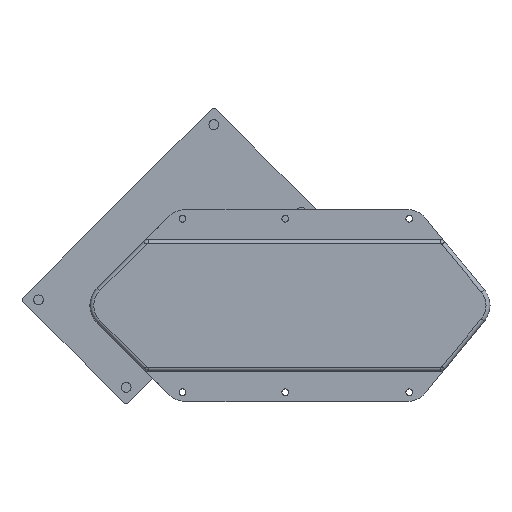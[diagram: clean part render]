
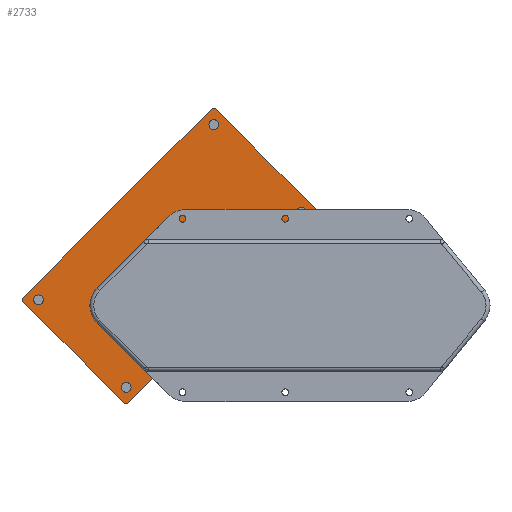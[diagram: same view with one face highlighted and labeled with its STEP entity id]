
A CAD part, top view. The second image highlights one B-rep face of the part: STEP entity #2733.
In plain terms, the highlighted planar face has unit normal (0, 0, 1) as drawn and (0, 0, -1) by its records, which use the part's own axes.
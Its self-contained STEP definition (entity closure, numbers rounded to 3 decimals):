
#39 = VERTEX_POINT ( 'NONE', #3929 ) ;
#56 = DIRECTION ( 'NONE',  ( -1., 0., 0. ) ) ;
#59 = AXIS2_PLACEMENT_3D ( 'NONE', #108, #1600, #4334 ) ;
#108 = CARTESIAN_POINT ( 'NONE',  ( 10., 110., 0. ) ) ;
#116 = CARTESIAN_POINT ( 'NONE',  ( 214., 10., 0. ) ) ;
#157 = DIRECTION ( 'NONE',  ( -1., 0., 0. ) ) ;
#205 = CARTESIAN_POINT ( 'NONE',  ( 206., 110., 0. ) ) ;
#238 = ORIENTED_EDGE ( 'NONE', *, *, #1915, .F. ) ;
#276 = CARTESIAN_POINT ( 'NONE',  ( 10., 110., 0. ) ) ;
#278 = DIRECTION ( 'NONE',  ( 0., 0., -1. ) ) ;
#282 = PLANE ( 'NONE',  #4636 ) ;
#319 = EDGE_CURVE ( 'NONE', #39, #475, #332, .T. ) ;
#332 = CIRCLE ( 'NONE', #3399, 2. ) ;
#459 = EDGE_LOOP ( 'NONE', ( #3606, #238 ) ) ;
#468 = VERTEX_POINT ( 'NONE', #3388 ) ;
#475 = VERTEX_POINT ( 'NONE', #2971 ) ;
#515 = EDGE_CURVE ( 'NONE', #4214, #724, #759, .T. ) ;
#543 = ORIENTED_EDGE ( 'NONE', *, *, #2367, .F. ) ;
#546 = LINE ( 'NONE', #2146, #4591 ) ;
#574 = DIRECTION ( 'NONE',  ( 0., 0., -1. ) ) ;
#600 = CARTESIAN_POINT ( 'NONE',  ( 220., 0., 0. ) ) ;
#619 = AXIS2_PLACEMENT_3D ( 'NONE', #5128, #4321, #1586 ) ;
#621 = FACE_BOUND ( 'NONE', #4048, .T. ) ;
#642 = LINE ( 'NONE', #2246, #1200 ) ;
#695 = CARTESIAN_POINT ( 'NONE',  ( 10., 10., 0. ) ) ;
#696 = ORIENTED_EDGE ( 'NONE', *, *, #4738, .F. ) ;
#717 = DIRECTION ( 'NONE',  ( 1., 0., 0. ) ) ;
#721 = DIRECTION ( 'NONE',  ( -1., 0., 0. ) ) ;
#724 = VERTEX_POINT ( 'NONE', #1493 ) ;
#726 = DIRECTION ( 'NONE',  ( 1., 0., 0. ) ) ;
#734 = AXIS2_PLACEMENT_3D ( 'NONE', #695, #1579, #721 ) ;
#744 = AXIS2_PLACEMENT_3D ( 'NONE', #3711, #2943, #157 ) ;
#758 = EDGE_LOOP ( 'NONE', ( #2173, #1857 ) ) ;
#759 = CIRCLE ( 'NONE', #1082, 2. ) ;
#915 = ORIENTED_EDGE ( 'NONE', *, *, #3954, .F. ) ;
#951 = CARTESIAN_POINT ( 'NONE',  ( 210., 110., 0. ) ) ;
#1007 = CARTESIAN_POINT ( 'NONE',  ( 6., 110., 0. ) ) ;
#1082 = AXIS2_PLACEMENT_3D ( 'NONE', #1113, #278, #3452 ) ;
#1113 = CARTESIAN_POINT ( 'NONE',  ( 218., 118., 0. ) ) ;
#1144 = DIRECTION ( 'NONE',  ( 1., 0., 0. ) ) ;
#1200 = VECTOR ( 'NONE', #4461, 1000. ) ;
#1289 = DIRECTION ( 'NONE',  ( 0., 0., -1. ) ) ;
#1291 = ORIENTED_EDGE ( 'NONE', *, *, #1528, .T. ) ;
#1312 = ORIENTED_EDGE ( 'NONE', *, *, #5079, .T. ) ;
#1335 = CARTESIAN_POINT ( 'NONE',  ( 206., 10., 0. ) ) ;
#1350 = ORIENTED_EDGE ( 'NONE', *, *, #1564, .T. ) ;
#1415 = DIRECTION ( 'NONE',  ( 0., 0., -1. ) ) ;
#1422 = AXIS2_PLACEMENT_3D ( 'NONE', #3574, #2835, #3168 ) ;
#1493 = CARTESIAN_POINT ( 'NONE',  ( 220., 118., 0. ) ) ;
#1497 = CARTESIAN_POINT ( 'NONE',  ( 214., 110., 0. ) ) ;
#1528 = EDGE_CURVE ( 'NONE', #4318, #39, #642, .T. ) ;
#1541 = VERTEX_POINT ( 'NONE', #3799 ) ;
#1564 = EDGE_CURVE ( 'NONE', #3795, #4318, #3280, .T. ) ;
#1579 = DIRECTION ( 'NONE',  ( 0., 0., -1. ) ) ;
#1586 = DIRECTION ( 'NONE',  ( 1., 0., 0. ) ) ;
#1600 = DIRECTION ( 'NONE',  ( 0., 0., -1. ) ) ;
#1628 = EDGE_LOOP ( 'NONE', ( #543, #2944 ) ) ;
#1638 = EDGE_CURVE ( 'NONE', #1930, #2630, #3448, .T. ) ;
#1691 = EDGE_CURVE ( 'NONE', #2883, #2651, #4691, .T. ) ;
#1742 = CARTESIAN_POINT ( 'NONE',  ( 210., 110., 0. ) ) ;
#1753 = EDGE_CURVE ( 'NONE', #468, #3996, #2320, .T. ) ;
#1814 = DIRECTION ( 'NONE',  ( 1., 0., 0. ) ) ;
#1857 = ORIENTED_EDGE ( 'NONE', *, *, #1638, .F. ) ;
#1915 = EDGE_CURVE ( 'NONE', #1541, #3024, #4536, .T. ) ;
#1930 = VERTEX_POINT ( 'NONE', #1497 ) ;
#1985 = AXIS2_PLACEMENT_3D ( 'NONE', #3032, #2646, #1814 ) ;
#2100 = CIRCLE ( 'NONE', #4655, 4. ) ;
#2146 = CARTESIAN_POINT ( 'NONE',  ( 0., 120., 0. ) ) ;
#2173 = ORIENTED_EDGE ( 'NONE', *, *, #4566, .F. ) ;
#2184 = VERTEX_POINT ( 'NONE', #1335 ) ;
#2200 = LINE ( 'NONE', #600, #2266 ) ;
#2220 = AXIS2_PLACEMENT_3D ( 'NONE', #1742, #1289, #56 ) ;
#2246 = CARTESIAN_POINT ( 'NONE',  ( 0., 0., 0. ) ) ;
#2248 = FACE_BOUND ( 'NONE', #758, .T. ) ;
#2266 = VECTOR ( 'NONE', #3754, 1000. ) ;
#2274 = FACE_BOUND ( 'NONE', #459, .T. ) ;
#2320 = CIRCLE ( 'NONE', #1985, 2. ) ;
#2325 = ORIENTED_EDGE ( 'NONE', *, *, #515, .T. ) ;
#2340 = CARTESIAN_POINT ( 'NONE',  ( 2., 0., 0. ) ) ;
#2367 = EDGE_CURVE ( 'NONE', #2651, #2883, #4373, .T. ) ;
#2393 = EDGE_CURVE ( 'NONE', #3024, #1541, #4050, .T. ) ;
#2559 = DIRECTION ( 'NONE',  ( 0., 0., -1. ) ) ;
#2630 = VERTEX_POINT ( 'NONE', #205 ) ;
#2646 = DIRECTION ( 'NONE',  ( 0., 0., -1. ) ) ;
#2651 = VERTEX_POINT ( 'NONE', #1007 ) ;
#2688 = VECTOR ( 'NONE', #1144, 1000. ) ;
#2708 = CARTESIAN_POINT ( 'NONE',  ( 0., 0., 0. ) ) ;
#2733 = ADVANCED_FACE ( 'NONE', ( #4618, #3831, #2274, #621, #2248 ), #282, .F. ) ;
#2804 = CARTESIAN_POINT ( 'NONE',  ( 218., 0., 0. ) ) ;
#2835 = DIRECTION ( 'NONE',  ( 0., 0., -1. ) ) ;
#2847 = VERTEX_POINT ( 'NONE', #116 ) ;
#2883 = VERTEX_POINT ( 'NONE', #4034 ) ;
#2943 = DIRECTION ( 'NONE',  ( 0., 0., -1. ) ) ;
#2944 = ORIENTED_EDGE ( 'NONE', *, *, #1691, .F. ) ;
#2950 = AXIS2_PLACEMENT_3D ( 'NONE', #276, #1415, #4587 ) ;
#2971 = CARTESIAN_POINT ( 'NONE',  ( 2., 120., 0. ) ) ;
#3024 = VERTEX_POINT ( 'NONE', #5071 ) ;
#3032 = CARTESIAN_POINT ( 'NONE',  ( 218., 2., 0. ) ) ;
#3114 = CARTESIAN_POINT ( 'NONE',  ( 0., 0., 0. ) ) ;
#3133 = ORIENTED_EDGE ( 'NONE', *, *, #1753, .T. ) ;
#3168 = DIRECTION ( 'NONE',  ( -1., 0., 0. ) ) ;
#3280 = CIRCLE ( 'NONE', #619, 2. ) ;
#3343 = CIRCLE ( 'NONE', #4827, 4. ) ;
#3354 = EDGE_LOOP ( 'NONE', ( #696, #1350, #1291, #3976, #1312, #2325, #4219, #3133 ) ) ;
#3388 = CARTESIAN_POINT ( 'NONE',  ( 220., 2., 0. ) ) ;
#3399 = AXIS2_PLACEMENT_3D ( 'NONE', #3816, #5045, #717 ) ;
#3404 = EDGE_CURVE ( 'NONE', #468, #724, #2200, .T. ) ;
#3448 = CIRCLE ( 'NONE', #2220, 4. ) ;
#3452 = DIRECTION ( 'NONE',  ( 1., 0., 0. ) ) ;
#3507 = LINE ( 'NONE', #2708, #2688 ) ;
#3520 = EDGE_CURVE ( 'NONE', #2184, #2847, #2100, .T. ) ;
#3567 = CARTESIAN_POINT ( 'NONE',  ( 0., 2., 0. ) ) ;
#3574 = CARTESIAN_POINT ( 'NONE',  ( 210., 10., 0. ) ) ;
#3606 = ORIENTED_EDGE ( 'NONE', *, *, #2393, .F. ) ;
#3710 = DIRECTION ( 'NONE',  ( -1., 0., 0. ) ) ;
#3711 = CARTESIAN_POINT ( 'NONE',  ( 10., 10., 0. ) ) ;
#3754 = DIRECTION ( 'NONE',  ( 0., 1., 0. ) ) ;
#3795 = VERTEX_POINT ( 'NONE', #2340 ) ;
#3799 = CARTESIAN_POINT ( 'NONE',  ( 14., 10., 0. ) ) ;
#3816 = CARTESIAN_POINT ( 'NONE',  ( 2., 118., 0. ) ) ;
#3831 = FACE_BOUND ( 'NONE', #1628, .T. ) ;
#3929 = CARTESIAN_POINT ( 'NONE',  ( 0., 118., 0. ) ) ;
#3954 = EDGE_CURVE ( 'NONE', #2847, #2184, #4576, .T. ) ;
#3976 = ORIENTED_EDGE ( 'NONE', *, *, #319, .T. ) ;
#3996 = VERTEX_POINT ( 'NONE', #2804 ) ;
#4034 = CARTESIAN_POINT ( 'NONE',  ( 14., 110., 0. ) ) ;
#4048 = EDGE_LOOP ( 'NONE', ( #4252, #915 ) ) ;
#4050 = CIRCLE ( 'NONE', #744, 4. ) ;
#4120 = DIRECTION ( 'NONE',  ( -1., 0., 0. ) ) ;
#4151 = CARTESIAN_POINT ( 'NONE',  ( 210., 10., 0. ) ) ;
#4214 = VERTEX_POINT ( 'NONE', #4814 ) ;
#4219 = ORIENTED_EDGE ( 'NONE', *, *, #3404, .F. ) ;
#4252 = ORIENTED_EDGE ( 'NONE', *, *, #3520, .F. ) ;
#4268 = DIRECTION ( 'NONE',  ( 0., 0., 1. ) ) ;
#4318 = VERTEX_POINT ( 'NONE', #3567 ) ;
#4321 = DIRECTION ( 'NONE',  ( 0., 0., -1. ) ) ;
#4334 = DIRECTION ( 'NONE',  ( -1., 0., 0. ) ) ;
#4373 = CIRCLE ( 'NONE', #59, 4. ) ;
#4461 = DIRECTION ( 'NONE',  ( 0., 1., 0. ) ) ;
#4536 = CIRCLE ( 'NONE', #734, 4. ) ;
#4566 = EDGE_CURVE ( 'NONE', #2630, #1930, #3343, .T. ) ;
#4576 = CIRCLE ( 'NONE', #1422, 4. ) ;
#4587 = DIRECTION ( 'NONE',  ( -1., 0., 0. ) ) ;
#4591 = VECTOR ( 'NONE', #4617, 1000. ) ;
#4617 = DIRECTION ( 'NONE',  ( 1., 0., 0. ) ) ;
#4618 = FACE_OUTER_BOUND ( 'NONE', #3354, .T. ) ;
#4636 = AXIS2_PLACEMENT_3D ( 'NONE', #3114, #4268, #726 ) ;
#4655 = AXIS2_PLACEMENT_3D ( 'NONE', #4151, #2559, #4120 ) ;
#4691 = CIRCLE ( 'NONE', #2950, 4. ) ;
#4738 = EDGE_CURVE ( 'NONE', #3795, #3996, #3507, .T. ) ;
#4814 = CARTESIAN_POINT ( 'NONE',  ( 218., 120., 0. ) ) ;
#4827 = AXIS2_PLACEMENT_3D ( 'NONE', #951, #574, #3710 ) ;
#5045 = DIRECTION ( 'NONE',  ( 0., 0., -1. ) ) ;
#5071 = CARTESIAN_POINT ( 'NONE',  ( 6., 10., 0. ) ) ;
#5079 = EDGE_CURVE ( 'NONE', #475, #4214, #546, .T. ) ;
#5128 = CARTESIAN_POINT ( 'NONE',  ( 2., 2., 0. ) ) ;
